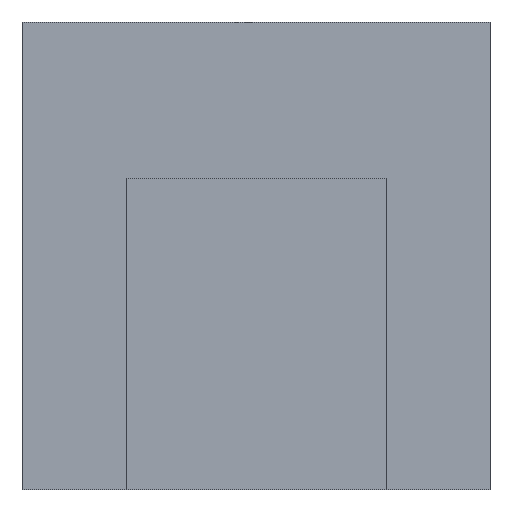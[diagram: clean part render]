
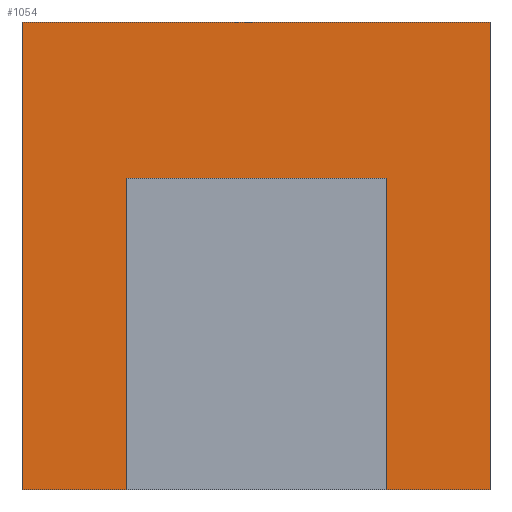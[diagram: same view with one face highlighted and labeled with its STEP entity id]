
A CAD part, front view. The second image highlights one B-rep face of the part: STEP entity #1054.
In plain terms, the highlighted planar face has unit normal (0, -1, 0).
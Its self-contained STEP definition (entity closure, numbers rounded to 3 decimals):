
#44 = PLANE('',#45);
#45 = AXIS2_PLACEMENT_3D('',#46,#47,#48);
#46 = CARTESIAN_POINT('',(4.,82.,0.));
#47 = DIRECTION('',(0.,0.,1.));
#48 = DIRECTION('',(0.,-1.,0.));
#217 = VERTEX_POINT('',#218);
#218 = CARTESIAN_POINT('',(0.,12.,0.));
#232 = PLANE('',#233);
#233 = AXIS2_PLACEMENT_3D('',#234,#235,#236);
#234 = CARTESIAN_POINT('',(0.,13.5,0.));
#235 = DIRECTION('',(1.,0.,0.));
#236 = DIRECTION('',(0.,-1.,0.));
#244 = EDGE_CURVE('',#217,#245,#247,.T.);
#245 = VERTEX_POINT('',#246);
#246 = CARTESIAN_POINT('',(4.,12.,0.));
#247 = SURFACE_CURVE('',#248,(#252,#259),.PCURVE_S1.);
#248 = LINE('',#249,#250);
#249 = CARTESIAN_POINT('',(0.,12.,0.));
#250 = VECTOR('',#251,1.);
#251 = DIRECTION('',(1.,0.,0.));
#252 = PCURVE('',#44,#253);
#253 = DEFINITIONAL_REPRESENTATION('',(#254),#258);
#254 = LINE('',#255,#256);
#255 = CARTESIAN_POINT('',(70.,-4.));
#256 = VECTOR('',#257,1.);
#257 = DIRECTION('',(0.,1.));
#258 = ( GEOMETRIC_REPRESENTATION_CONTEXT(2) 
PARAMETRIC_REPRESENTATION_CONTEXT() REPRESENTATION_CONTEXT('2D SPACE',''
  ) );
#259 = PCURVE('',#260,#265);
#260 = PLANE('',#261);
#261 = AXIS2_PLACEMENT_3D('',#262,#263,#264);
#262 = CARTESIAN_POINT('',(0.,12.,0.));
#263 = DIRECTION('',(0.,-1.,0.));
#264 = DIRECTION('',(1.,0.,0.));
#265 = DEFINITIONAL_REPRESENTATION('',(#266),#270);
#266 = LINE('',#267,#268);
#267 = CARTESIAN_POINT('',(0.,0.));
#268 = VECTOR('',#269,1.);
#269 = DIRECTION('',(1.,0.));
#270 = ( GEOMETRIC_REPRESENTATION_CONTEXT(2) 
PARAMETRIC_REPRESENTATION_CONTEXT() REPRESENTATION_CONTEXT('2D SPACE',''
  ) );
#288 = PLANE('',#289);
#289 = AXIS2_PLACEMENT_3D('',#290,#291,#292);
#290 = CARTESIAN_POINT('',(4.,82.,0.));
#291 = DIRECTION('',(1.,0.,0.));
#292 = DIRECTION('',(0.,-1.,0.));
#329 = VERTEX_POINT('',#330);
#330 = CARTESIAN_POINT('',(14.,12.,0.));
#344 = PLANE('',#345);
#345 = AXIS2_PLACEMENT_3D('',#346,#347,#348);
#346 = CARTESIAN_POINT('',(14.,82.,0.));
#347 = DIRECTION('',(1.,0.,0.));
#348 = DIRECTION('',(0.,-1.,0.));
#356 = EDGE_CURVE('',#329,#357,#359,.T.);
#357 = VERTEX_POINT('',#358);
#358 = CARTESIAN_POINT('',(18.,12.,0.));
#359 = SURFACE_CURVE('',#360,(#364,#371),.PCURVE_S1.);
#360 = LINE('',#361,#362);
#361 = CARTESIAN_POINT('',(0.,12.,0.));
#362 = VECTOR('',#363,1.);
#363 = DIRECTION('',(1.,0.,0.));
#364 = PCURVE('',#44,#365);
#365 = DEFINITIONAL_REPRESENTATION('',(#366),#370);
#366 = LINE('',#367,#368);
#367 = CARTESIAN_POINT('',(70.,-4.));
#368 = VECTOR('',#369,1.);
#369 = DIRECTION('',(0.,1.));
#370 = ( GEOMETRIC_REPRESENTATION_CONTEXT(2) 
PARAMETRIC_REPRESENTATION_CONTEXT() REPRESENTATION_CONTEXT('2D SPACE',''
  ) );
#371 = PCURVE('',#260,#372);
#372 = DEFINITIONAL_REPRESENTATION('',(#373),#377);
#373 = LINE('',#374,#375);
#374 = CARTESIAN_POINT('',(0.,0.));
#375 = VECTOR('',#376,1.);
#376 = DIRECTION('',(1.,0.));
#377 = ( GEOMETRIC_REPRESENTATION_CONTEXT(2) 
PARAMETRIC_REPRESENTATION_CONTEXT() REPRESENTATION_CONTEXT('2D SPACE',''
  ) );
#395 = PLANE('',#396);
#396 = AXIS2_PLACEMENT_3D('',#397,#398,#399);
#397 = CARTESIAN_POINT('',(18.,13.5,0.));
#398 = DIRECTION('',(1.,0.,0.));
#399 = DIRECTION('',(0.,-1.,0.));
#666 = PLANE('',#667);
#667 = AXIS2_PLACEMENT_3D('',#668,#669,#670);
#668 = CARTESIAN_POINT('',(0.,13.5,18.));
#669 = DIRECTION('',(0.,0.,1.));
#670 = DIRECTION('',(0.,-1.,0.));
#1012 = VERTEX_POINT('',#1013);
#1013 = CARTESIAN_POINT('',(18.,12.,18.));
#1034 = EDGE_CURVE('',#357,#1012,#1035,.T.);
#1035 = SURFACE_CURVE('',#1036,(#1040,#1047),.PCURVE_S1.);
#1036 = LINE('',#1037,#1038);
#1037 = CARTESIAN_POINT('',(18.,12.,0.));
#1038 = VECTOR('',#1039,1.);
#1039 = DIRECTION('',(0.,0.,1.));
#1040 = PCURVE('',#395,#1041);
#1041 = DEFINITIONAL_REPRESENTATION('',(#1042),#1046);
#1042 = LINE('',#1043,#1044);
#1043 = CARTESIAN_POINT('',(1.5,0.));
#1044 = VECTOR('',#1045,1.);
#1045 = DIRECTION('',(0.,-1.));
#1046 = ( GEOMETRIC_REPRESENTATION_CONTEXT(2) 
PARAMETRIC_REPRESENTATION_CONTEXT() REPRESENTATION_CONTEXT('2D SPACE',''
  ) );
#1047 = PCURVE('',#260,#1048);
#1048 = DEFINITIONAL_REPRESENTATION('',(#1049),#1053);
#1049 = LINE('',#1050,#1051);
#1050 = CARTESIAN_POINT('',(18.,0.));
#1051 = VECTOR('',#1052,1.);
#1052 = DIRECTION('',(0.,1.));
#1053 = ( GEOMETRIC_REPRESENTATION_CONTEXT(2) 
PARAMETRIC_REPRESENTATION_CONTEXT() REPRESENTATION_CONTEXT('2D SPACE',''
  ) );
#1054 = ADVANCED_FACE('',(#1055),#260,.T.);
#1055 = FACE_BOUND('',#1056,.T.);
#1056 = EDGE_LOOP('',(#1057,#1080,#1101,#1102,#1125,#1153,#1174,#1175));
#1057 = ORIENTED_EDGE('',*,*,#1058,.F.);
#1058 = EDGE_CURVE('',#1059,#1012,#1061,.T.);
#1059 = VERTEX_POINT('',#1060);
#1060 = CARTESIAN_POINT('',(0.,12.,18.));
#1061 = SURFACE_CURVE('',#1062,(#1066,#1073),.PCURVE_S1.);
#1062 = LINE('',#1063,#1064);
#1063 = CARTESIAN_POINT('',(0.,12.,18.));
#1064 = VECTOR('',#1065,1.);
#1065 = DIRECTION('',(1.,0.,0.));
#1066 = PCURVE('',#260,#1067);
#1067 = DEFINITIONAL_REPRESENTATION('',(#1068),#1072);
#1068 = LINE('',#1069,#1070);
#1069 = CARTESIAN_POINT('',(0.,18.));
#1070 = VECTOR('',#1071,1.);
#1071 = DIRECTION('',(1.,0.));
#1072 = ( GEOMETRIC_REPRESENTATION_CONTEXT(2) 
PARAMETRIC_REPRESENTATION_CONTEXT() REPRESENTATION_CONTEXT('2D SPACE',''
  ) );
#1073 = PCURVE('',#666,#1074);
#1074 = DEFINITIONAL_REPRESENTATION('',(#1075),#1079);
#1075 = LINE('',#1076,#1077);
#1076 = CARTESIAN_POINT('',(1.5,0.));
#1077 = VECTOR('',#1078,1.);
#1078 = DIRECTION('',(0.,1.));
#1079 = ( GEOMETRIC_REPRESENTATION_CONTEXT(2) 
PARAMETRIC_REPRESENTATION_CONTEXT() REPRESENTATION_CONTEXT('2D SPACE',''
  ) );
#1080 = ORIENTED_EDGE('',*,*,#1081,.F.);
#1081 = EDGE_CURVE('',#217,#1059,#1082,.T.);
#1082 = SURFACE_CURVE('',#1083,(#1087,#1094),.PCURVE_S1.);
#1083 = LINE('',#1084,#1085);
#1084 = CARTESIAN_POINT('',(0.,12.,0.));
#1085 = VECTOR('',#1086,1.);
#1086 = DIRECTION('',(0.,0.,1.));
#1087 = PCURVE('',#260,#1088);
#1088 = DEFINITIONAL_REPRESENTATION('',(#1089),#1093);
#1089 = LINE('',#1090,#1091);
#1090 = CARTESIAN_POINT('',(0.,0.));
#1091 = VECTOR('',#1092,1.);
#1092 = DIRECTION('',(0.,1.));
#1093 = ( GEOMETRIC_REPRESENTATION_CONTEXT(2) 
PARAMETRIC_REPRESENTATION_CONTEXT() REPRESENTATION_CONTEXT('2D SPACE',''
  ) );
#1094 = PCURVE('',#232,#1095);
#1095 = DEFINITIONAL_REPRESENTATION('',(#1096),#1100);
#1096 = LINE('',#1097,#1098);
#1097 = CARTESIAN_POINT('',(1.5,0.));
#1098 = VECTOR('',#1099,1.);
#1099 = DIRECTION('',(0.,-1.));
#1100 = ( GEOMETRIC_REPRESENTATION_CONTEXT(2) 
PARAMETRIC_REPRESENTATION_CONTEXT() REPRESENTATION_CONTEXT('2D SPACE',''
  ) );
#1101 = ORIENTED_EDGE('',*,*,#244,.T.);
#1102 = ORIENTED_EDGE('',*,*,#1103,.F.);
#1103 = EDGE_CURVE('',#1104,#245,#1106,.T.);
#1104 = VERTEX_POINT('',#1105);
#1105 = CARTESIAN_POINT('',(4.,12.,12.));
#1106 = SURFACE_CURVE('',#1107,(#1111,#1118),.PCURVE_S1.);
#1107 = LINE('',#1108,#1109);
#1108 = CARTESIAN_POINT('',(4.,12.,0.));
#1109 = VECTOR('',#1110,1.);
#1110 = DIRECTION('',(0.,0.,-1.));
#1111 = PCURVE('',#260,#1112);
#1112 = DEFINITIONAL_REPRESENTATION('',(#1113),#1117);
#1113 = LINE('',#1114,#1115);
#1114 = CARTESIAN_POINT('',(4.,0.));
#1115 = VECTOR('',#1116,1.);
#1116 = DIRECTION('',(0.,-1.));
#1117 = ( GEOMETRIC_REPRESENTATION_CONTEXT(2) 
PARAMETRIC_REPRESENTATION_CONTEXT() REPRESENTATION_CONTEXT('2D SPACE',''
  ) );
#1118 = PCURVE('',#288,#1119);
#1119 = DEFINITIONAL_REPRESENTATION('',(#1120),#1124);
#1120 = LINE('',#1121,#1122);
#1121 = CARTESIAN_POINT('',(70.,0.));
#1122 = VECTOR('',#1123,1.);
#1123 = DIRECTION('',(0.,1.));
#1124 = ( GEOMETRIC_REPRESENTATION_CONTEXT(2) 
PARAMETRIC_REPRESENTATION_CONTEXT() REPRESENTATION_CONTEXT('2D SPACE',''
  ) );
#1125 = ORIENTED_EDGE('',*,*,#1126,.T.);
#1126 = EDGE_CURVE('',#1104,#1127,#1129,.T.);
#1127 = VERTEX_POINT('',#1128);
#1128 = CARTESIAN_POINT('',(14.,12.,12.));
#1129 = SURFACE_CURVE('',#1130,(#1134,#1141),.PCURVE_S1.);
#1130 = LINE('',#1131,#1132);
#1131 = CARTESIAN_POINT('',(2.,12.,12.));
#1132 = VECTOR('',#1133,1.);
#1133 = DIRECTION('',(1.,0.,0.));
#1134 = PCURVE('',#260,#1135);
#1135 = DEFINITIONAL_REPRESENTATION('',(#1136),#1140);
#1136 = LINE('',#1137,#1138);
#1137 = CARTESIAN_POINT('',(2.,12.));
#1138 = VECTOR('',#1139,1.);
#1139 = DIRECTION('',(1.,0.));
#1140 = ( GEOMETRIC_REPRESENTATION_CONTEXT(2) 
PARAMETRIC_REPRESENTATION_CONTEXT() REPRESENTATION_CONTEXT('2D SPACE',''
  ) );
#1141 = PCURVE('',#1142,#1147);
#1142 = PLANE('',#1143);
#1143 = AXIS2_PLACEMENT_3D('',#1144,#1145,#1146);
#1144 = CARTESIAN_POINT('',(4.,82.,12.));
#1145 = DIRECTION('',(0.,0.,1.));
#1146 = DIRECTION('',(0.,-1.,0.));
#1147 = DEFINITIONAL_REPRESENTATION('',(#1148),#1152);
#1148 = LINE('',#1149,#1150);
#1149 = CARTESIAN_POINT('',(70.,-2.));
#1150 = VECTOR('',#1151,1.);
#1151 = DIRECTION('',(0.,1.));
#1152 = ( GEOMETRIC_REPRESENTATION_CONTEXT(2) 
PARAMETRIC_REPRESENTATION_CONTEXT() REPRESENTATION_CONTEXT('2D SPACE',''
  ) );
#1153 = ORIENTED_EDGE('',*,*,#1154,.T.);
#1154 = EDGE_CURVE('',#1127,#329,#1155,.T.);
#1155 = SURFACE_CURVE('',#1156,(#1160,#1167),.PCURVE_S1.);
#1156 = LINE('',#1157,#1158);
#1157 = CARTESIAN_POINT('',(14.,12.,0.));
#1158 = VECTOR('',#1159,1.);
#1159 = DIRECTION('',(0.,0.,-1.));
#1160 = PCURVE('',#260,#1161);
#1161 = DEFINITIONAL_REPRESENTATION('',(#1162),#1166);
#1162 = LINE('',#1163,#1164);
#1163 = CARTESIAN_POINT('',(14.,0.));
#1164 = VECTOR('',#1165,1.);
#1165 = DIRECTION('',(0.,-1.));
#1166 = ( GEOMETRIC_REPRESENTATION_CONTEXT(2) 
PARAMETRIC_REPRESENTATION_CONTEXT() REPRESENTATION_CONTEXT('2D SPACE',''
  ) );
#1167 = PCURVE('',#344,#1168);
#1168 = DEFINITIONAL_REPRESENTATION('',(#1169),#1173);
#1169 = LINE('',#1170,#1171);
#1170 = CARTESIAN_POINT('',(70.,0.));
#1171 = VECTOR('',#1172,1.);
#1172 = DIRECTION('',(0.,1.));
#1173 = ( GEOMETRIC_REPRESENTATION_CONTEXT(2) 
PARAMETRIC_REPRESENTATION_CONTEXT() REPRESENTATION_CONTEXT('2D SPACE',''
  ) );
#1174 = ORIENTED_EDGE('',*,*,#356,.T.);
#1175 = ORIENTED_EDGE('',*,*,#1034,.T.);
